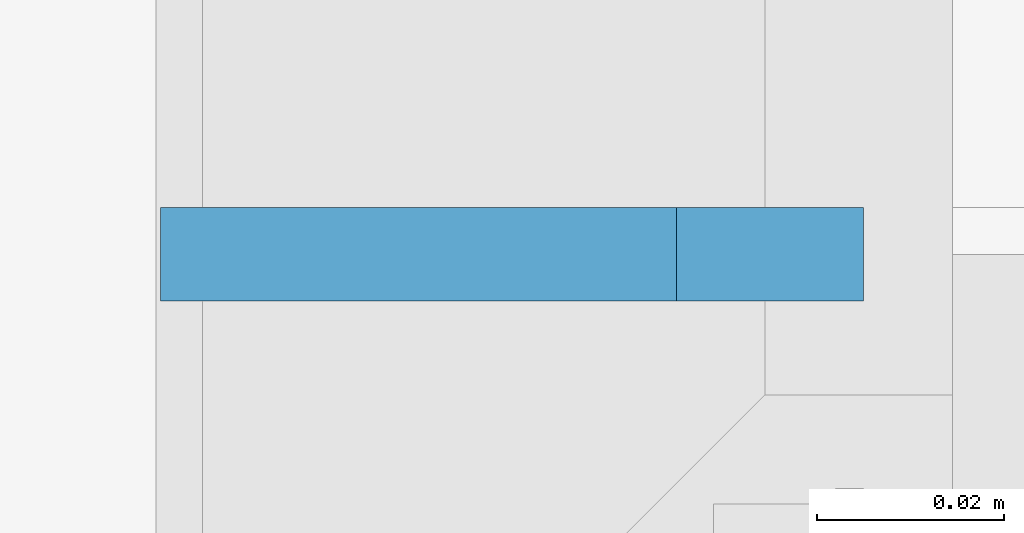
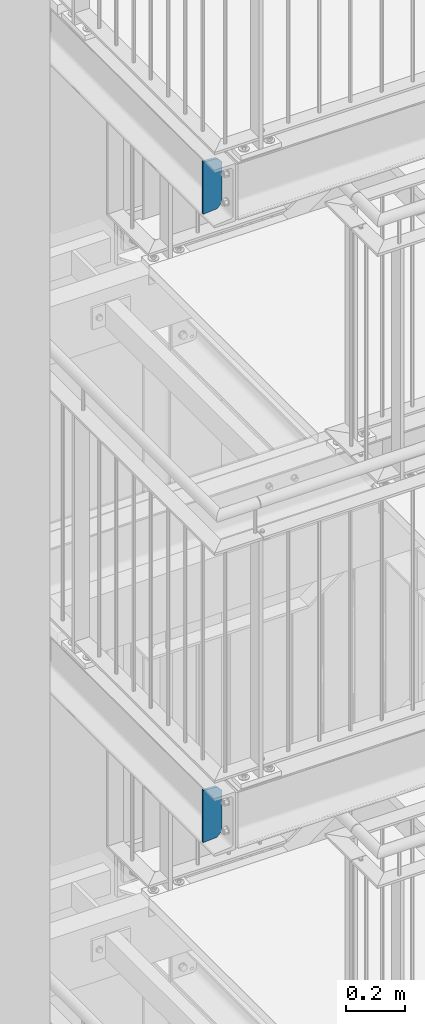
# One storey, part 146 of 825: 2 plates, 4 openings.
"""IFC2X3 building model written with IfcOpenShell, lengths in millimetres."""

from ifc_helpers import new_model, entity, si_unit, converted_unit, frame, origin, origin_with_axes, place, context, project, spatial, polyline, outline, extrude, material, layer, layer_set, element, save


model = new_model("IFC2X3")

# Units and contexts
model_context = context("Model", 3, precision=1e-09, world=origin_with_axes())
ifc_project = project(units=[si_unit("LENGTHUNIT", "METRE", prefix="MILLI"), si_unit("AREAUNIT", "SQUARE_METRE"), si_unit("VOLUMEUNIT", "CUBIC_METRE"), converted_unit("PLANEANGLEUNIT", "DEGREE", entity("IfcPlaneAngleMeasure", 0.01745329), si_unit("PLANEANGLEUNIT", "RADIAN"), dimensions=[0, 0, 0, 0, 0, 0, 0])], contexts=[model_context])

# Site, building, storey
site_placement = place(None, origin_with_axes())
site = spatial("IfcSite", under=ifc_project, at=site_placement, Name="Cnopf'sche Kinderklinik", CompositionType="ELEMENT")
building_placement = place(site_placement, origin_with_axes())
building = spatial("IfcBuilding", under=site, at=building_placement, Name="Struktur 1", CompositionType="ELEMENT")
storey_placement = place(building_placement, origin_with_axes())
storey = spatial("IfcBuildingStorey", under=building, at=storey_placement, Name="Default Storey", CompositionType="ELEMENT", Elevation=0.0)

# Plate, openings
ifc_material = material(Name="S235JR")
ifc_layer = layer(ifc_material, 10.0)
ifc_layer_set = layer_set([ifc_layer], Name="S235JR")
plate_1_placement = place(None, frame((3312.213402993, 4576.736971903, 15196.855161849), z_axis=(0.0, -1.0, 0.0), x_axis=(-0.996815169, 0.0, 0.079746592)))
plate_1 = element("IfcPlate", 1, at=plate_1_placement, inside=storey, material=ifc_layer_set, Name="Stiffener#1", ObjectType="Stiffener#1", context=model_context, shape_type="SweptSolid", body=[
    extrude(outline(polyline([(0.0, 0.0), (75.239625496, 0.0), (57.877952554, 217.017159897), (-16.404697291, 205.05517107), (0.0, 0.0)])), origin_with_axes(), (0.0, 0.0, 1.0), 10.0),
])
opening_1_placement = place(plate_1_placement, frame((0.0, 0.0, -0.01), z_axis=(0.0, 0.0, 1.0), x_axis=(1.0, 0.0, 0.0)))
element("IfcOpeningElement", 2, at=opening_1_placement, cuts=plate_1, ObjectType="Opening", context=model_context, shape_type="SweptSolid", body=[
    extrude(outline(polyline([(-16.404697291, 205.05517107), (-14.809765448, 185.118867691), (3.34092195, 208.23487558), (-16.404697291, 205.05517107)])), origin(), (0.0, 0.0, 1.0), 10.02),
])
opening_2_placement = place(plate_1_placement, frame((0.0, 0.0, -0.01), z_axis=(0.0, 0.0, 1.0), x_axis=(1.0, 0.0, 0.0)))
element("IfcOpeningElement", 3, at=opening_2_placement, cuts=plate_1, ObjectType="Opening", context=model_context, shape_type="SweptSolid", body=[
    extrude(outline(polyline([(0.0, 0.0), (20.0, 0.0), (-1.594931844, 19.936303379), (0.0, 0.0)])), origin(), (0.0, 0.0, 1.0), 10.02),
])

plate_2_placement = place(None, frame((3312.213402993, 4576.736971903, 17816.855161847), z_axis=(0.0, -1.0, 0.0), x_axis=(-0.996815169, 0.0, 0.079746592)))
plate_2 = element("IfcPlate", 4, at=plate_2_placement, inside=storey, material=ifc_layer_set, Name="Stiffener#1", ObjectType="Stiffener#1", context=model_context, shape_type="SweptSolid", body=[
    extrude(outline(polyline([(0.0, 0.0), (75.239625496, 0.0), (57.877952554, 217.017159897), (-16.404697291, 205.05517107), (0.0, 0.0)])), origin_with_axes(), (0.0, 0.0, 1.0), 10.0),
])
opening_3_placement = place(plate_2_placement, frame((0.0, 0.0, -0.01), z_axis=(0.0, 0.0, 1.0), x_axis=(1.0, 0.0, 0.0)))
element("IfcOpeningElement", 5, at=opening_3_placement, cuts=plate_2, ObjectType="Opening", context=model_context, shape_type="SweptSolid", body=[
    extrude(outline(polyline([(-16.404697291, 205.05517107), (-14.809765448, 185.118867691), (3.34092195, 208.23487558), (-16.404697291, 205.05517107)])), origin(), (0.0, 0.0, 1.0), 10.02),
])
opening_4_placement = place(plate_2_placement, frame((0.0, 0.0, -0.01), z_axis=(0.0, 0.0, 1.0), x_axis=(1.0, 0.0, 0.0)))
element("IfcOpeningElement", 6, at=opening_4_placement, cuts=plate_2, ObjectType="Opening", context=model_context, shape_type="SweptSolid", body=[
    extrude(outline(polyline([(0.0, 0.0), (20.0, 0.0), (-1.594931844, 19.936303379), (0.0, 0.0)])), origin(), (0.0, 0.0, 1.0), 10.02),
])

save(model, "model.ifc")
